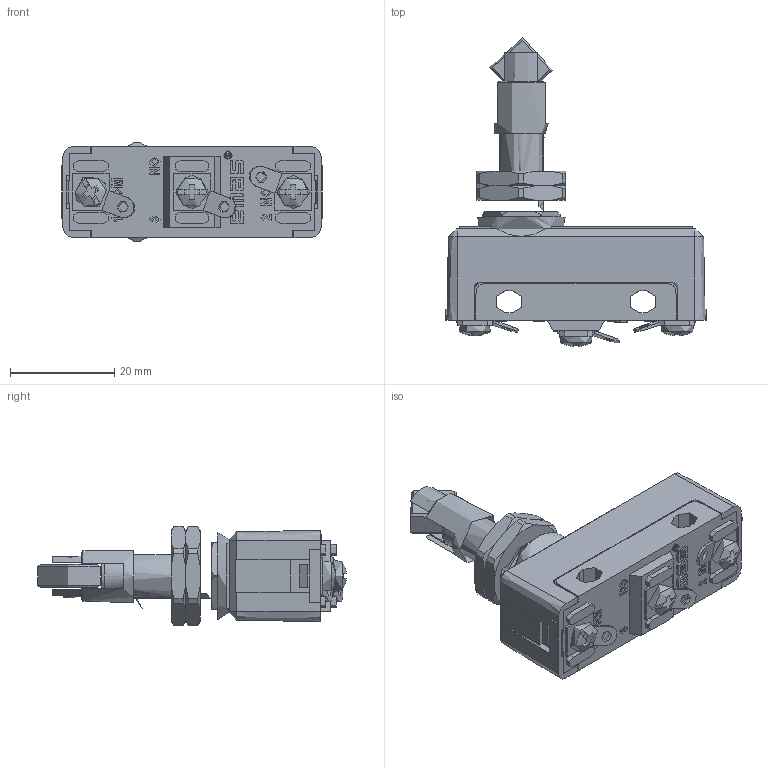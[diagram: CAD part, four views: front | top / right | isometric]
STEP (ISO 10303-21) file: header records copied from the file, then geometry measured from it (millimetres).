
FILE_DESCRIPTION((''),'2; 1');
FILE_NAME('','2026-03-27T16:30:01',(''),(''),'CST STEP Exporter V1.0','Unknown','');
FILE_SCHEMA(('CONFIG_CONTROL_DESIGN'));
Length unit declared in the file: metre
Assembly tree (15 placements, depth 2):
  (unnamed)
    (unnamed)
    (unnamed)
    (unnamed)
    (unnamed)
    (unnamed)
    (unnamed)
    (unnamed)
    (unnamed)
    (unnamed)
    (unnamed)
    (unnamed)
    (unnamed)
    (unnamed)
    (unnamed)
    (unnamed)
Bounding box: 50 x 59.2 x 19.05 mm (x, y, z)
Topology: 0 solids, 54 shells, 545 faces, 1655 edges, 1164 vertices
Faces by surface type: plane 331, cylinder 105, extrusion 53, cone 50, bspline 3, sphere 3
Full cylindrical faces by diameter (mm): 1.2 x1, 1.4 x1, 1.8 x1, 2.1 x1, 2.2 x3, 2.3 x1, 3.1 x1, 8 x1, 8.1 x1, 8.3 x1, 10.4 x1, 12 x2, 16.8 x1
Entity records: 25601 total; most frequent: CARTESIAN_POINT 6715, ORIENTED_EDGE 2984, DIRECTION 2566, EDGE_CURVE 1684, VERTEX_POINT 1185, VECTOR 1086, LINE 1035, AXIS2_PLACEMENT_3D 740
